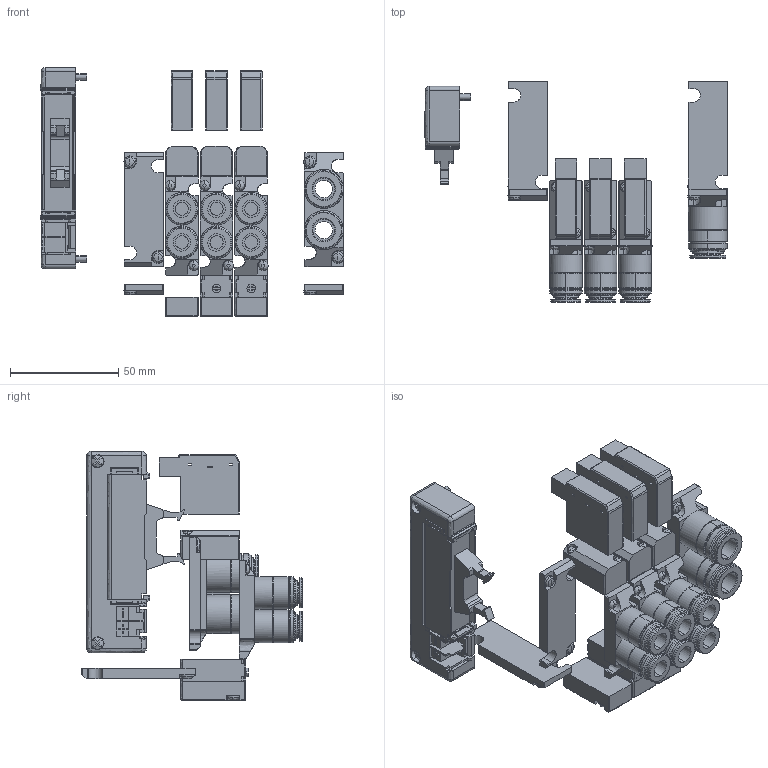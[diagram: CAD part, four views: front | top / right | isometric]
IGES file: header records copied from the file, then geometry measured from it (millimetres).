
Start section: ------------------------------------------------------------------------
Global section: file name: D:\ICADMX\tmp\trans3d_spg\CVICAD02.5220.F15M4XP-JR-F10x-DN_16795.igs; native system: spGate; preprocessor: ver12.6.6; author: Unknown; organization: Unknown; date: 210712.184858; units: millimetre
Bounding box: 140.15 x 101.8 x 115 mm (x, y, z)
Volume: 150042.9 mm3; surface area: 70184.4 mm2
Topology: 20 solids, 20 shells, 1533 faces, 3936 edges, 2451 vertices
Faces by surface type: bspline 1533
